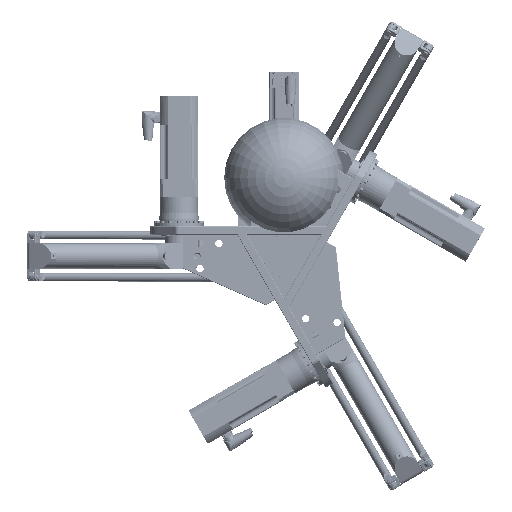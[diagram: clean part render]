
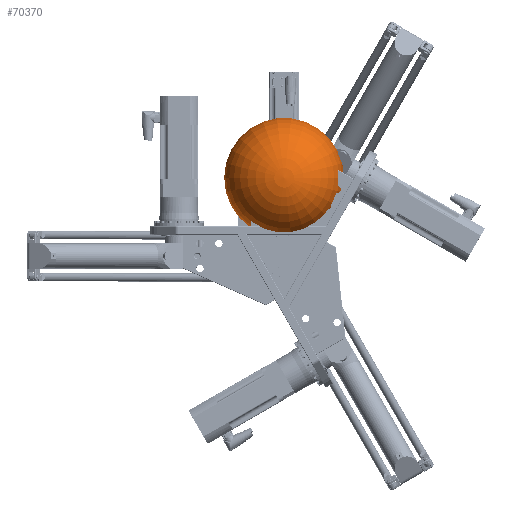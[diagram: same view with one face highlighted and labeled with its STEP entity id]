
A CAD part, top view. The second image highlights one B-rep face of the part: STEP entity #70370.
In plain terms, the highlighted toroidal (fillet/blend) face has major radius 0.044 mm and minor radius 142.912 mm.
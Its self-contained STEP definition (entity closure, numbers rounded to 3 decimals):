
#465 = DIRECTION ( 'NONE',  ( 0., 0., 1. ) ) ;
#1569 = EDGE_CURVE ( 'NONE', #136848, #136848, #126090, .T. ) ;
#29636 = CARTESIAN_POINT ( 'NONE',  ( 0., 185.84, -100.524 ) ) ;
#49787 = TOROIDAL_SURFACE ( 'NONE', #66695, 0.044, 142.912 ) ;
#66695 = AXIS2_PLACEMENT_3D ( 'NONE', #99412, #157835, #129197 ) ;
#70370 = ADVANCED_FACE ( 'NONE', ( #125615 ), #49787, .T. ) ;
#81350 = AXIS2_PLACEMENT_3D ( 'NONE', #29636, #465, #135620 ) ;
#95718 = ORIENTED_EDGE ( 'NONE', *, *, #1569, .F. ) ;
#99412 = CARTESIAN_POINT ( 'NONE',  ( 0., 185.84, 40.416 ) ) ;
#107666 = CARTESIAN_POINT ( 'NONE',  ( -23.703, 185.84, -100.524 ) ) ;
#125615 = FACE_OUTER_BOUND ( 'NONE', #138976, .T. ) ;
#126090 = CIRCLE ( 'NONE', #81350, 23.703 ) ;
#129197 = DIRECTION ( 'NONE',  ( -1., 0., 0. ) ) ;
#135620 = DIRECTION ( 'NONE',  ( -1., 0., 0. ) ) ;
#136848 = VERTEX_POINT ( 'NONE', #107666 ) ;
#138976 = EDGE_LOOP ( 'NONE', ( #95718 ) ) ;
#157835 = DIRECTION ( 'NONE',  ( 0., 0., 1. ) ) ;
